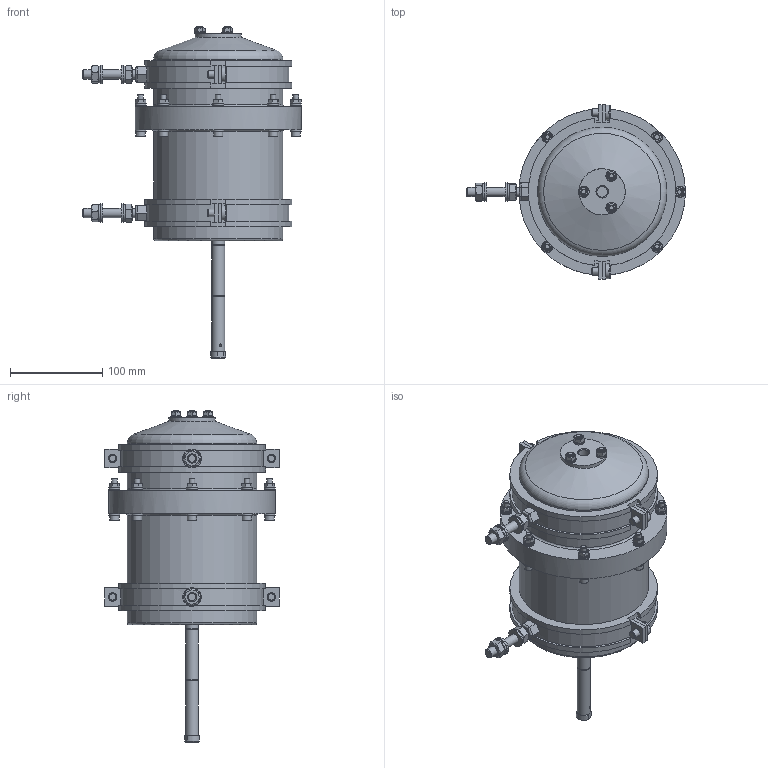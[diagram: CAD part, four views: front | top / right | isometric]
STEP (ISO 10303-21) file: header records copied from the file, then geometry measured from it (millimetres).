
FILE_DESCRIPTION(/* description */ (''),/* implementation_level */ '2;1');
FILE_NAME(/* name */ 'C:\Workspace\Projects\Z. Archive\Erwin\Hycos step\Serie 1 - The Basic Serie (Hyco Black)\Hyco 1.4L BL - ME-0135-0001.stp',/* time_stamp */ '2017-04-14T14:50:40+02:00',/* author */ ('Joost'),/* organization */ (''),/* preprocessor_version */ 'ST-DEVELOPER v15.2',/* originating_system */ 'Autodesk Inventor 2014',/* authorisation */ '');
FILE_SCHEMA (('AUTOMOTIVE_DESIGN { 1 0 10303 214 3 1 1 }'));
Length unit declared in the file: millimetre
Products named in the file (1): ME-0135-0001-Solid
Bounding box: 236.65 x 188.79 x 359.4 mm (x, y, z)
Volume: 3807871.7 mm3; surface area: 213174.6 mm2
Topology: 1 solids, 1 shells, 700 faces, 1668 edges, 1067 vertices
Faces by surface type: plane 419, cylinder 178, cone 75, torus 28
Full cylindrical faces by diameter (mm): 2.5 x1, 4.917 x2, 6 x22, 6.4 x16, 6.5 x3, 6.647 x1, 7 x8, 8 x4, 9 x4, 10 x14, 10.5 x4, 11.445 x1, 12 x16, 14 x3, 16.029 x4, 20 x4, 25 x4, 50 x1, 140 x4, 180 x1
Entity records: 19340 total; most frequent: CARTESIAN_POINT 3915, DIRECTION 3104, ORIENTED_EDGE 2778, EDGE_CURVE 1385, AXIS2_PLACEMENT_3D 1285, EDGE_LOOP 1030, VERTEX_POINT 985, ADVANCED_FACE 700
